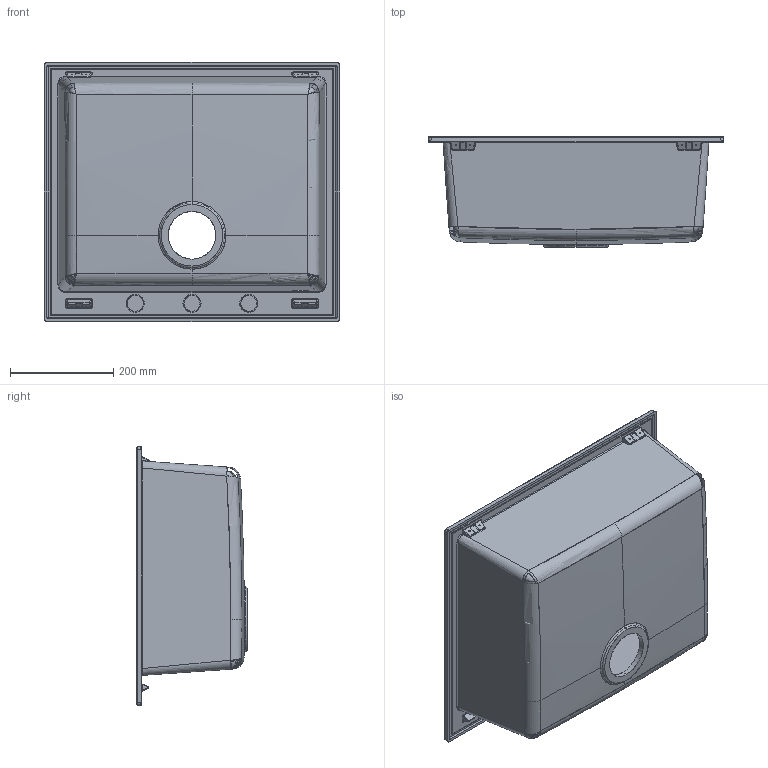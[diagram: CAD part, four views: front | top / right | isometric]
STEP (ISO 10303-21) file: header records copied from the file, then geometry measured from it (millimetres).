
FILE_DESCRIPTION(('CATIA V5 STEP Exchange'),'2;1');
FILE_NAME('C:\Users\linop\Desktop\VZ57.stp','2018-05-29T15:49:57+00:00',('none'),('none'),'CATIA Version 5-6 Release 2014','CATIA V5 STEP AP203','none');
FILE_SCHEMA(('CONFIG_CONTROL_DESIGN'));
Products named in the file (1): VZ57
Bounding box: 571.4 x 213.5 x 501.4 mm (x, y, z)
Surface area: 1194663 mm2 (no closed solid volume)
Topology: 0 solids, 347 shells, 581 faces, 2214 edges, 1930 vertices
Faces by surface type: bspline 330, cylinder 132, plane 53, torus 28, sphere 28, revolution 8, cone 2
Entity records: 41244 total; most frequent: CARTESIAN_POINT 27239, ORIENTED_EDGE 2564, EDGE_CURVE 2164, VERTEX_POINT 1930, DIRECTION 1372, B_SPLINE_CURVE_WITH_KNOTS 952, AXIS2_PLACEMENT_3D 658, EDGE_LOOP 604
